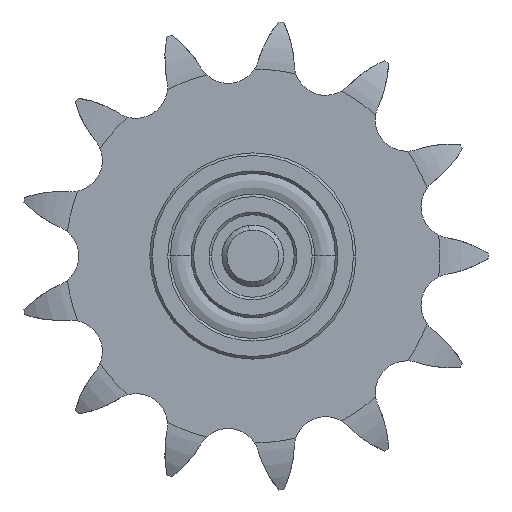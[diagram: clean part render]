
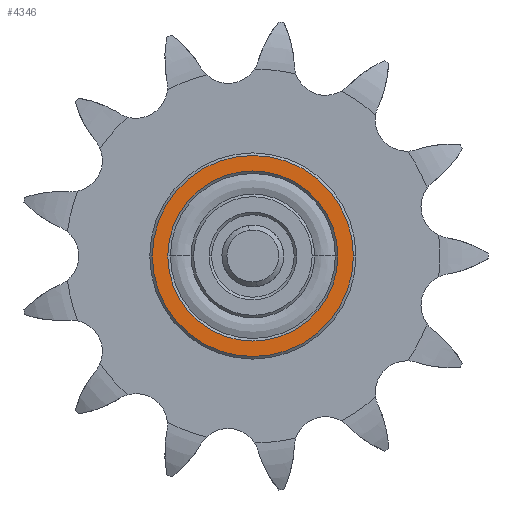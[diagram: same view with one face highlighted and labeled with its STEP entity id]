
A CAD part, left-side view. The second image highlights one B-rep face of the part: STEP entity #4346.
In plain terms, the highlighted planar face has unit normal (-1, 0, 0) as drawn and (0, 0, -1) by its records, which use the part's own axes.
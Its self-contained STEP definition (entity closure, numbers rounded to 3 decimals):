
#139 = AXIS2_PLACEMENT_3D ( 'NONE', #5026, #1755, #860 ) ;
#187 = AXIS2_PLACEMENT_3D ( 'NONE', #2679, #817, #3635 ) ;
#202 = CARTESIAN_POINT ( 'NONE',  ( 0., 16.5, -6. ) ) ;
#232 = DIRECTION ( 'NONE',  ( 0., 0., 1. ) ) ;
#234 = EDGE_LOOP ( 'NONE', ( #4957, #5358 ) ) ;
#273 = CIRCLE ( 'NONE', #4994, 19.5 ) ;
#291 = VERTEX_POINT ( 'NONE', #535 ) ;
#487 = DIRECTION ( 'NONE',  ( 0., 0., -1. ) ) ;
#535 = CARTESIAN_POINT ( 'NONE',  ( 0., 19.5, -6. ) ) ;
#719 = CIRCLE ( 'NONE', #187, 16.5 ) ;
#811 = ORIENTED_EDGE ( 'NONE', *, *, #2087, .T. ) ;
#817 = DIRECTION ( 'NONE',  ( 0., 0., 1. ) ) ;
#857 = CIRCLE ( 'NONE', #139, 19.5 ) ;
#860 = DIRECTION ( 'NONE',  ( 0., -1., 0. ) ) ;
#887 = ORIENTED_EDGE ( 'NONE', *, *, #5319, .T. ) ;
#929 = AXIS2_PLACEMENT_3D ( 'NONE', #4128, #5051, #5482 ) ;
#1091 = CARTESIAN_POINT ( 'NONE',  ( 0., -19.5, -6. ) ) ;
#1095 = DIRECTION ( 'NONE',  ( 0., -1., 0. ) ) ;
#1275 = EDGE_CURVE ( 'NONE', #1781, #291, #857, .T. ) ;
#1492 = PLANE ( 'NONE',  #4512 ) ;
#1755 = DIRECTION ( 'NONE',  ( 0., 0., -1. ) ) ;
#1781 = VERTEX_POINT ( 'NONE', #1091 ) ;
#2087 = EDGE_CURVE ( 'NONE', #5711, #3068, #3533, .T. ) ;
#2438 = EDGE_CURVE ( 'NONE', #291, #1781, #273, .T. ) ;
#2679 = CARTESIAN_POINT ( 'NONE',  ( 0., 0., -6. ) ) ;
#2713 = FACE_BOUND ( 'NONE', #4167, .T. ) ;
#3068 = VERTEX_POINT ( 'NONE', #202 ) ;
#3291 = CARTESIAN_POINT ( 'NONE',  ( 0., 0., -6. ) ) ;
#3533 = CIRCLE ( 'NONE', #929, 16.5 ) ;
#3635 = DIRECTION ( 'NONE',  ( 0., -1., 0. ) ) ;
#3753 = DIRECTION ( 'NONE',  ( 0., -1., 0. ) ) ;
#3798 = CARTESIAN_POINT ( 'NONE',  ( 0., -16.5, -6. ) ) ;
#4128 = CARTESIAN_POINT ( 'NONE',  ( 0., 0., -6. ) ) ;
#4167 = EDGE_LOOP ( 'NONE', ( #887, #811 ) ) ;
#4346 = ADVANCED_FACE ( 'NONE', ( #2713, #4868 ), #1492, .F. ) ;
#4512 = AXIS2_PLACEMENT_3D ( 'NONE', #5192, #232, #1095 ) ;
#4868 = FACE_OUTER_BOUND ( 'NONE', #234, .T. ) ;
#4957 = ORIENTED_EDGE ( 'NONE', *, *, #1275, .T. ) ;
#4994 = AXIS2_PLACEMENT_3D ( 'NONE', #3291, #487, #3753 ) ;
#5026 = CARTESIAN_POINT ( 'NONE',  ( 0., 0., -6. ) ) ;
#5051 = DIRECTION ( 'NONE',  ( 0., 0., 1. ) ) ;
#5192 = CARTESIAN_POINT ( 'NONE',  ( 0., 20., -6. ) ) ;
#5319 = EDGE_CURVE ( 'NONE', #3068, #5711, #719, .T. ) ;
#5358 = ORIENTED_EDGE ( 'NONE', *, *, #2438, .T. ) ;
#5482 = DIRECTION ( 'NONE',  ( 0., -1., 0. ) ) ;
#5711 = VERTEX_POINT ( 'NONE', #3798 ) ;
